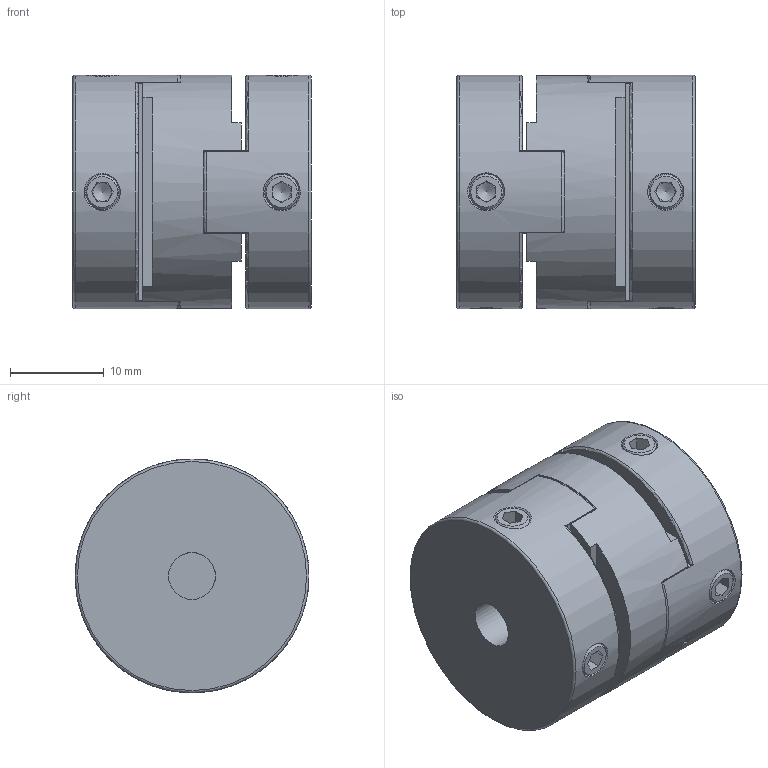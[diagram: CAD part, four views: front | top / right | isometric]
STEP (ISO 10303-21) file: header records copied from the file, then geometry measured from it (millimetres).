
FILE_DESCRIPTION( ( 'Unknown' ), '1' );
FILE_NAME( 'F:/JAKOB-STEP+IGES-Dateien/STEP-Dateien/MOH/MOH 25.stp', 'Unknown', ( 'Unknown' ), ( 'Unknown' ), 'PSStep 10.1', 'Unknown', ' ' );
FILE_SCHEMA( ( 'AUTOMOTIVE_DESIGN { 1 0 10303 214 1 1 1 1 }' ) );
Length unit declared in the file: millimetre
Products named in the file (1): KT100403-oa2
Bounding box: 25.5 x 25 x 25 mm (x, y, z)
Volume: 11327.2 mm3; surface area: 4739.6 mm2
Topology: 1 solids, 1 shells, 141 faces, 362 edges, 215 vertices
Faces by surface type: plane 86, cylinder 21, cone 12, bspline 12, torus 10
Full cylindrical faces by diameter (mm): 3.242 x4, 5 x2, 25 x3
Entity records: 5848 total; most frequent: CARTESIAN_POINT 1676, DIRECTION 600, ORIENTED_EDGE 600, EDGE_CURVE 300, AXIS2_PLACEMENT_3D 214, VERTEX_POINT 196, EDGE_LOOP 180, LINE 172
